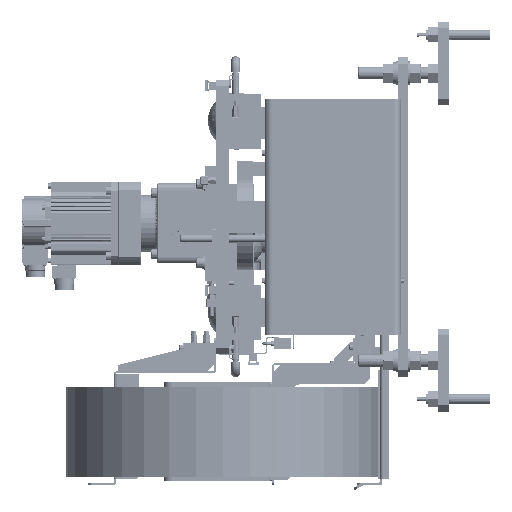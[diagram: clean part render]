
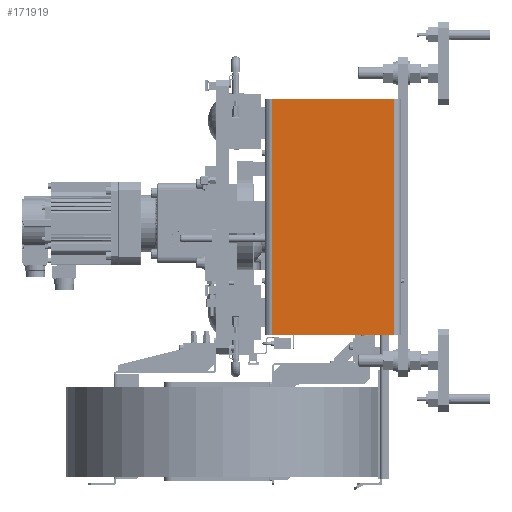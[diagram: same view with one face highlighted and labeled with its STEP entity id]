
A CAD part, left-side view. The second image highlights one B-rep face of the part: STEP entity #171919.
In plain terms, the highlighted planar face has unit normal (-1, 0, 0).
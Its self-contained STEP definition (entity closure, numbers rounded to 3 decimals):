
#1286 = ORIENTED_EDGE ( 'NONE', *, *, #132513, .F. ) ;
#12405 = CARTESIAN_POINT ( 'NONE',  ( -63., 10.8, -185. ) ) ;
#36869 = AXIS2_PLACEMENT_3D ( 'NONE', #194196, #208744, #76349 ) ;
#38159 = VERTEX_POINT ( 'NONE', #53048 ) ;
#52418 = ORIENTED_EDGE ( 'NONE', *, *, #56447, .T. ) ;
#53048 = CARTESIAN_POINT ( 'NONE',  ( -63., 10.8, 185. ) ) ;
#56447 = EDGE_CURVE ( 'NONE', #172894, #137548, #154808, .T. ) ;
#57905 = CARTESIAN_POINT ( 'NONE',  ( -63., 10.8, -185. ) ) ;
#60374 = VECTOR ( 'NONE', #159232, 1000. ) ;
#60820 = LINE ( 'NONE', #75392, #86761 ) ;
#66773 = VECTOR ( 'NONE', #121294, 1000. ) ;
#74811 = DIRECTION ( 'NONE',  ( 0., -1., 0. ) ) ;
#75392 = CARTESIAN_POINT ( 'NONE',  ( -63., 202.2, 185. ) ) ;
#76349 = DIRECTION ( 'NONE',  ( 0., 1., 0. ) ) ;
#77580 = VERTEX_POINT ( 'NONE', #158482 ) ;
#86761 = VECTOR ( 'NONE', #146546, 1000. ) ;
#107138 = LINE ( 'NONE', #111579, #193003 ) ;
#111579 = CARTESIAN_POINT ( 'NONE',  ( -63., 10.8, 185. ) ) ;
#118846 = CARTESIAN_POINT ( 'NONE',  ( -63., 202.2, -185. ) ) ;
#121294 = DIRECTION ( 'NONE',  ( 0., 0., -1. ) ) ;
#126480 = PLANE ( 'NONE',  #36869 ) ;
#132513 = EDGE_CURVE ( 'NONE', #38159, #137548, #172334, .T. ) ;
#137548 = VERTEX_POINT ( 'NONE', #12405 ) ;
#139834 = FACE_OUTER_BOUND ( 'NONE', #169867, .T. ) ;
#140125 = CARTESIAN_POINT ( 'NONE',  ( -63., 10.8, 185. ) ) ;
#146546 = DIRECTION ( 'NONE',  ( 0., 0., -1. ) ) ;
#154808 = LINE ( 'NONE', #57905, #60374 ) ;
#158482 = CARTESIAN_POINT ( 'NONE',  ( -63., 202.2, 185. ) ) ;
#159232 = DIRECTION ( 'NONE',  ( 0., -1., 0. ) ) ;
#168902 = ORIENTED_EDGE ( 'NONE', *, *, #218133, .F. ) ;
#169867 = EDGE_LOOP ( 'NONE', ( #52418, #1286, #168902, #187407 ) ) ;
#171919 = ADVANCED_FACE ( 'NONE', ( #139834 ), #126480, .F. ) ;
#172334 = LINE ( 'NONE', #140125, #66773 ) ;
#172894 = VERTEX_POINT ( 'NONE', #118846 ) ;
#187407 = ORIENTED_EDGE ( 'NONE', *, *, #214710, .T. ) ;
#193003 = VECTOR ( 'NONE', #74811, 1000. ) ;
#194196 = CARTESIAN_POINT ( 'NONE',  ( -63., 10.8, 185. ) ) ;
#208744 = DIRECTION ( 'NONE',  ( 1., 0., 0. ) ) ;
#214710 = EDGE_CURVE ( 'NONE', #77580, #172894, #60820, .T. ) ;
#218133 = EDGE_CURVE ( 'NONE', #77580, #38159, #107138, .T. ) ;
